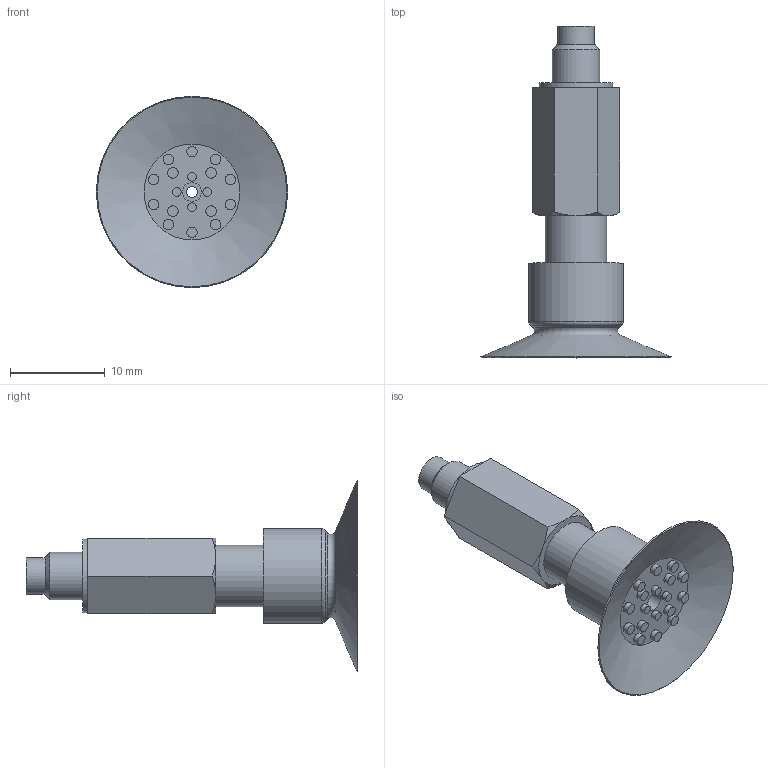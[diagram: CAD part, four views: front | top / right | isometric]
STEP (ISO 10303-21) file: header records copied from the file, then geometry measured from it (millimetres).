
FILE_DESCRIPTION(('STEP AP214'),'1');
FILE_NAME('.stp','2024-08-12T02:14:30',(' '),(' '),'Spatial InterOp 3D',' ',' ');
FILE_SCHEMA(('AUTOMOTIVE_DESIGN { 1 0 10303 214 1 1 1 1 }'));
Length unit declared in the file: millimetre
Products named in the file (4): BPSS-L5-BPAG-20A-※; PSS-20A-L5-M; PSS-20A-L5-F; BPAG-20A-※
Assembly tree (3 placements, depth 2):
  BPSS-L5-BPAG-20A-※
    PSS-20A-L5-M
    PSS-20A-L5-F
    BPAG-20A-※
Bounding box: 20.19 x 35 x 20.19 mm (x, y, z)
Volume: 1595.1 mm3; surface area: 2473.1 mm2
Topology: 3 solids, 3 shells, 91 faces, 159 edges, 102 vertices
Faces by surface type: plane 40, cylinder 33, cone 11, torus 7
Full cylindrical faces by diameter (mm): 0.9 x4, 1.1 x14, 1.2 x1, 2 x1, 2.4 x2, 3.4 x1, 3.8 x1, 4 x2, 5 x1, 6 x2, 6.5 x2, 7.8 x1, 10 x1
Entity records: 3028 total; most frequent: DIRECTION 370, CARTESIAN_POINT 323, ORIENTED_EDGE 216, AXIS2_PLACEMENT_3D 179, EDGE_LOOP 170, STYLED_ITEM 146, PRESENTATION_STYLE_ASSIGNMENT 146, COLOUR_RGB 146
